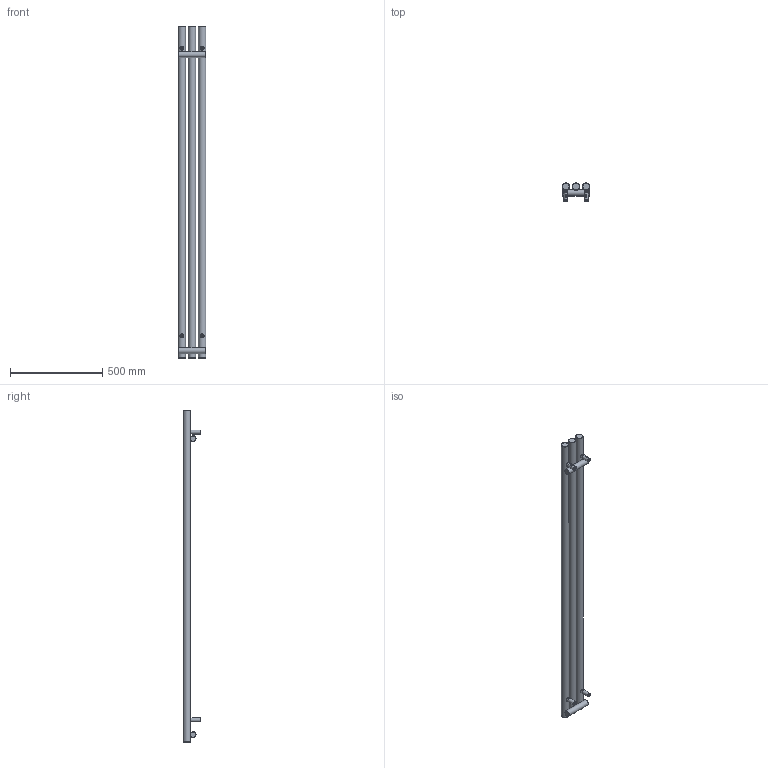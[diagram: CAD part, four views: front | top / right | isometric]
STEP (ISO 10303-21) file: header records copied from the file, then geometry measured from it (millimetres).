
FILE_DESCRIPTION(/* description */ (''),/* implementation_level */ '2;1');
FILE_NAME(/* name */ 'Z:\R\G\P\RGP116 - Grzejniki Geyser\Work\Inventor\Circolo (Rolo V, Rolo H)\ROLO-ROOM\Marketing\Bryły 3D\Zaokrąglone\WLROR180015-ES-CK-(Z).stp',/* time_stamp */ '2024-03-29T15:52:42+01:00',/* author */ ('NowAd'),/* organization */ (''),/* preprocessor_version */ 'ST-DEVELOPER v17.2',/* originating_system */ 'Autodesk Inventor 2019',/* authorisation */ '');
FILE_SCHEMA (('AUTOMOTIVE_DESIGN { 1 0 10303 214 3 1 1 }'));
Length unit declared in the file: millimetre
Products named in the file (3): WLROR180015-ES-CK-(Z); PGROR180015-ES-CK-(K); CK-V-fi40 marketing
Assembly tree (5 placements, depth 2):
  WLROR180015-ES-CK-(Z)
    PGROR180015-ES-CK-(K)
    CK-V-fi40 marketing  x4
Bounding box: 150 x 96.5 x 1800 mm (x, y, z)
Volume: 7069589.2 mm3; surface area: 748191 mm2
Topology: 5 solids, 5 shells, 303 faces, 769 edges, 514 vertices
Faces by surface type: plane 128, cylinder 71, cone 60, torus 38, bspline 6
Full cylindrical faces by diameter (mm): 4.134 x4, 4.48 x4, 6.4 x4, 10 x4, 12 x4, 15.834 x4, 16 x4, 18.631 x2, 22 x4, 32 x2, 40 x3
Entity records: 5260 total; most frequent: CARTESIAN_POINT 2330, DIRECTION 614, ORIENTED_EDGE 576, EDGE_CURVE 288, AXIS2_PLACEMENT_3D 271, VERTEX_POINT 196, EDGE_LOOP 150, CIRCLE 141
